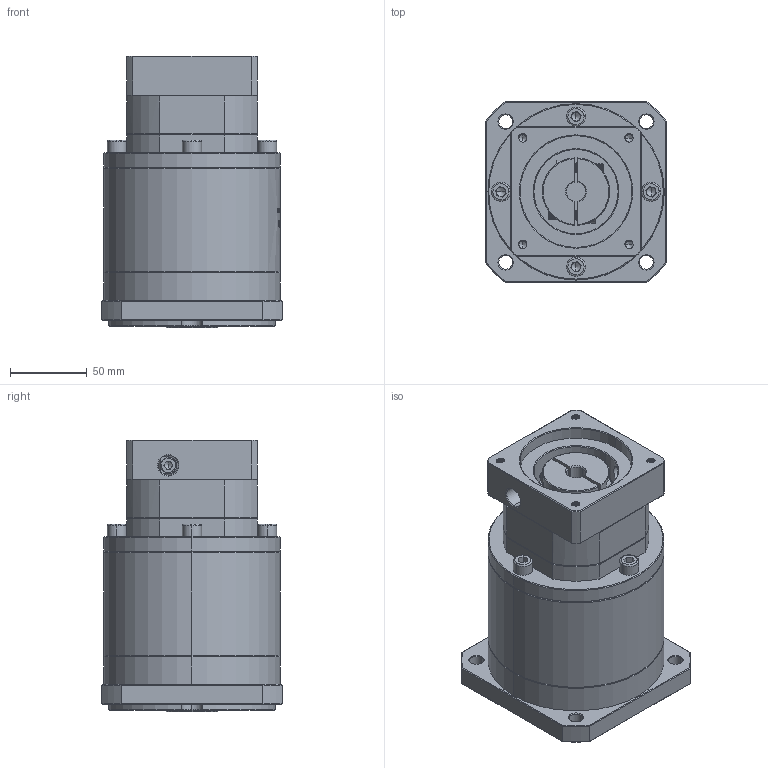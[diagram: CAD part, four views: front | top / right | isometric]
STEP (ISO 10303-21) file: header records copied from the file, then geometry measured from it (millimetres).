
FILE_DESCRIPTION (( 'STEP AP214' ), '1' );
FILE_NAME ('ZF120A-K25-L3-12.7-73-69.5X69.5-M6.step', '2023-03-07T15:04:01', ( '' ), ( 'Microsoft' ), 'SwSTEP 2.0', 'SolidWorks 2016', '' );
FILE_SCHEMA (( 'AUTOMOTIVE_DESIGN' ));
Length unit declared in the file: millimetre
Products named in the file (1): ZF120A-K25-L3-12.7-73-69.5X69.5-M6
Bounding box: 118 x 118 x 177.5 mm (x, y, z)
Volume: 1528264.4 mm3; surface area: 135346.6 mm2
Topology: 5 solids, 6 shells, 1878 faces, 4929 edges, 3143 vertices
Faces by surface type: plane 876, cylinder 369, bspline 312, cone 306, torus 15
Entity records: 99646 total; most frequent: CARTESIAN_POINT 36268, ORIENTED_EDGE 9802, DIRECTION 7601, EDGE_CURVE 4901, VERTEX_POINT 3143, VECTOR 2697, LINE 2697, AXIS2_PLACEMENT_3D 2452
